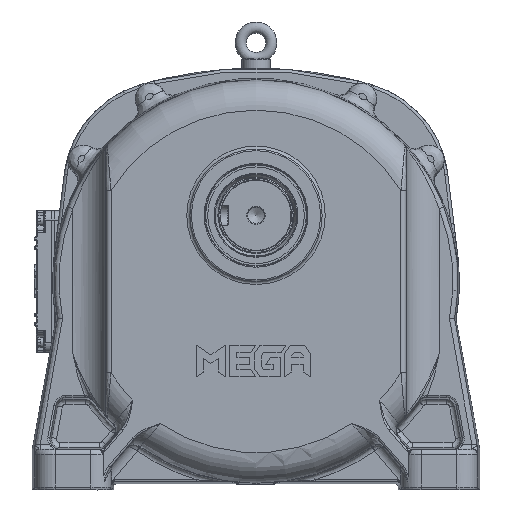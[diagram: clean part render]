
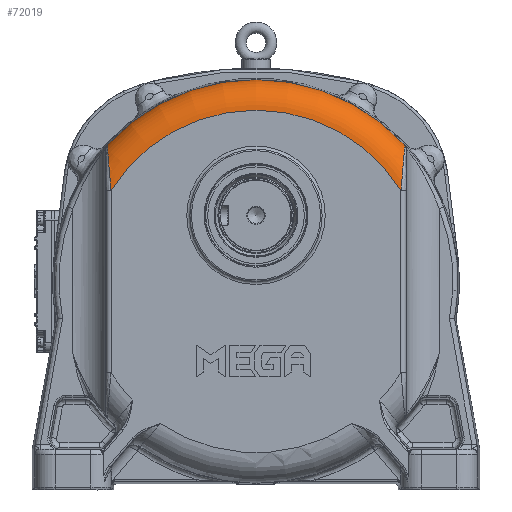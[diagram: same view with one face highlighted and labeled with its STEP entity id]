
A CAD part, front view. The second image highlights one B-rep face of the part: STEP entity #72019.
In plain terms, the highlighted toroidal (fillet/blend) face has major radius 168.286 mm and minor radius 30 mm.
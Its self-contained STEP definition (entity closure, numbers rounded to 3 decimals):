
#1686=TOROIDAL_SURFACE('',#77120,168.286,30.);
#2610=B_SPLINE_CURVE_WITH_KNOTS('',3,(#119605,#119606,#119607,#119608,#119609,
#119610,#119611,#119612),.UNSPECIFIED.,.F.,.F.,(4,1,1,1,1,4),(-4.797,
-3.426,-2.056,-1.028,-0.685,
0.),.UNSPECIFIED.);
#2611=B_SPLINE_CURVE_WITH_KNOTS('',3,(#119616,#119617,#119618,#119619,#119620,
#119621,#119622,#119623),.UNSPECIFIED.,.F.,.F.,(4,1,1,1,1,4),(-4.797,
-4.112,-3.427,-2.056,-0.685,
0.),.UNSPECIFIED.);
#2612=B_SPLINE_CURVE_WITH_KNOTS('',3,(#119624,#119625,#119626,#119627),
 .UNSPECIFIED.,.F.,.F.,(4,4),(-0.483,0.),.UNSPECIFIED.);
#2613=B_SPLINE_CURVE_WITH_KNOTS('',3,(#119628,#119629,#119630,#119631),
 .UNSPECIFIED.,.F.,.F.,(4,4),(0.,0.483),.UNSPECIFIED.);
#7616=FACE_OUTER_BOUND('',#11952,.T.);
#11952=EDGE_LOOP('',(#49512,#49513,#49514,#49515,#49516,#49517));
#25204=CIRCLE('',#77110,198.284);
#25214=CIRCLE('',#77121,168.286);
#29257=VERTEX_POINT('',#119524);
#29259=VERTEX_POINT('',#119535);
#29271=VERTEX_POINT('',#119603);
#29272=VERTEX_POINT('',#119604);
#29273=VERTEX_POINT('',#119613);
#29274=VERTEX_POINT('',#119615);
#36802=EDGE_CURVE('',#29259,#29257,#25204,.T.);
#36819=EDGE_CURVE('',#29271,#29272,#2610,.T.);
#36820=EDGE_CURVE('',#29271,#29273,#25214,.T.);
#36821=EDGE_CURVE('',#29274,#29273,#2611,.T.);
#36822=EDGE_CURVE('',#29259,#29274,#2612,.T.);
#36823=EDGE_CURVE('',#29272,#29257,#2613,.T.);
#49512=ORIENTED_EDGE('',*,*,#36819,.F.);
#49513=ORIENTED_EDGE('',*,*,#36820,.T.);
#49514=ORIENTED_EDGE('',*,*,#36821,.F.);
#49515=ORIENTED_EDGE('',*,*,#36822,.F.);
#49516=ORIENTED_EDGE('',*,*,#36802,.T.);
#49517=ORIENTED_EDGE('',*,*,#36823,.F.);
#72019=ADVANCED_FACE('',(#7616),#1686,.T.);
#77110=AXIS2_PLACEMENT_3D('',#119536,#86297,#86298);
#77120=AXIS2_PLACEMENT_3D('',#119602,#86317,#86318);
#77121=AXIS2_PLACEMENT_3D('',#119614,#86319,#86320);
#86297=DIRECTION('center_axis',(0.,-1.,0.));
#86298=DIRECTION('ref_axis',(-1.,0.,0.));
#86317=DIRECTION('center_axis',(0.,1.,0.));
#86318=DIRECTION('ref_axis',(0.,0.,1.));
#86319=DIRECTION('center_axis',(0.,1.,0.));
#86320=DIRECTION('ref_axis',(-1.,0.,0.));
#119524=CARTESIAN_POINT('',(-159.189,10.455,131.873));
#119535=CARTESIAN_POINT('',(133.806,10.455,131.873));
#119536=CARTESIAN_POINT('Origin',(-12.691,10.455,-1.75));
#119602=CARTESIAN_POINT('Origin',(-12.691,10.742,-1.75));
#119603=CARTESIAN_POINT('',(-155.191,-19.258,87.77));
#119604=CARTESIAN_POINT('',(-158.812,4.742,131.388));
#119605=CARTESIAN_POINT('Ctrl Pts',(-155.191,-19.258,
87.77));
#119606=CARTESIAN_POINT('Ctrl Pts',(-155.603,-19.258,
92.597));
#119607=CARTESIAN_POINT('Ctrl Pts',(-156.436,-18.415,
102.342));
#119608=CARTESIAN_POINT('Ctrl Pts',(-157.535,-14.01,
115.486));
#119609=CARTESIAN_POINT('Ctrl Pts',(-158.217,-7.794,
123.899));
#119610=CARTESIAN_POINT('Ctrl Pts',(-158.614,-1.566,
128.866));
#119611=CARTESIAN_POINT('Ctrl Pts',(-158.755,2.119,
130.656));
#119612=CARTESIAN_POINT('Ctrl Pts',(-158.812,4.742,
131.388));
#119613=CARTESIAN_POINT('',(129.809,-19.258,87.77));
#119614=CARTESIAN_POINT('Origin',(-12.691,-19.258,-1.75));
#119615=CARTESIAN_POINT('',(133.43,4.742,131.388));
#119616=CARTESIAN_POINT('Ctrl Pts',(133.43,4.742,131.388));
#119617=CARTESIAN_POINT('Ctrl Pts',(133.373,2.119,130.656));
#119618=CARTESIAN_POINT('Ctrl Pts',(133.184,-2.797,
128.269));
#119619=CARTESIAN_POINT('Ctrl Pts',(132.605,-10.577,
121.035));
#119620=CARTESIAN_POINT('Ctrl Pts',(131.666,-16.542,109.602));
#119621=CARTESIAN_POINT('Ctrl Pts',(130.635,-18.936,
97.452));
#119622=CARTESIAN_POINT('Ctrl Pts',(130.015,-19.258,
90.184));
#119623=CARTESIAN_POINT('Ctrl Pts',(129.809,-19.258,
87.77));
#119624=CARTESIAN_POINT('Ctrl Pts',(133.806,10.455,131.873));
#119625=CARTESIAN_POINT('Ctrl Pts',(133.596,8.555,132.076));
#119626=CARTESIAN_POINT('Ctrl Pts',(133.471,6.59,131.904));
#119627=CARTESIAN_POINT('Ctrl Pts',(133.43,4.742,131.388));
#119628=CARTESIAN_POINT('Ctrl Pts',(-158.812,4.742,
131.388));
#119629=CARTESIAN_POINT('Ctrl Pts',(-158.853,6.59,
131.904));
#119630=CARTESIAN_POINT('Ctrl Pts',(-158.979,8.555,
132.076));
#119631=CARTESIAN_POINT('Ctrl Pts',(-159.189,10.455,131.873));
